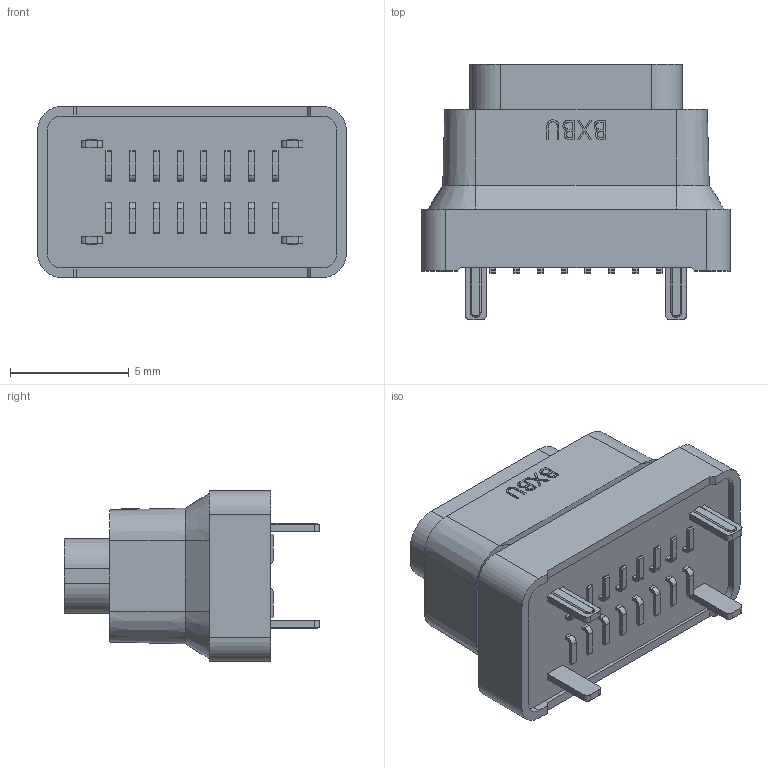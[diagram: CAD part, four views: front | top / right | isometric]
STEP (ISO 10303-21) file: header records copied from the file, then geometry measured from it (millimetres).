
FILE_DESCRIPTION (( 'STEP AP203' ), '1' );
FILE_NAME ('U5402-16PN8.8LF.STEP', '2026-09-01T07:55:03', ( '' ), ( '' ), 'SwSTEP 2.0', 'SolidWorks 2024', '' );
FILE_SCHEMA (( 'CONFIG_CONTROL_DESIGN' ));
Length unit declared in the file: millimetre
Products named in the file (1): U5402-16PN8.8LF
Bounding box: 13 x 10.75 x 7.2 mm (x, y, z)
Volume: 471.4 mm3; surface area: 768.6 mm2
Topology: 1 solids, 1 shells, 583 faces, 1628 edges, 1080 vertices
Faces by surface type: plane 430, cylinder 104, bspline 25, cone 16, torus 8
Entity records: 19988 total; most frequent: CARTESIAN_POINT 4859, ORIENTED_EDGE 3256, DIRECTION 2936, EDGE_CURVE 1628, VECTOR 1318, LINE 1318, VERTEX_POINT 1080, AXIS2_PLACEMENT_3D 809
